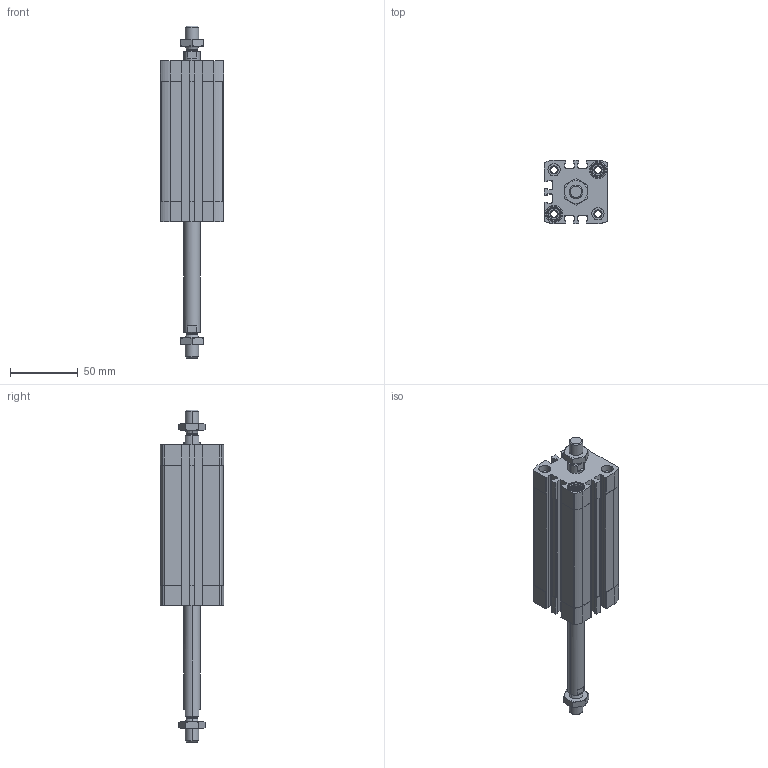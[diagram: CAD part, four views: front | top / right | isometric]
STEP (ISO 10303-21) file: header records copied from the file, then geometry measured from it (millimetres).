
FILE_DESCRIPTION (( 'STEP AP203' ), '1' );
FILE_NAME ('CCN32-75-P.STEP', '2020-06-22T18:48:31', ( '' ), ( '' ), 'SwSTEP 2.0', 'SolidWorks 2019', '' );
FILE_SCHEMA (( 'CONFIG_CONTROL_DESIGN' ));
Length unit declared in the file: millimetre
Products named in the file (1): CCN32-75-P
Bounding box: 47 x 47 x 245.5 mm (x, y, z)
Volume: 178082.8 mm3; surface area: 69810.6 mm2
Topology: 4 solids, 4 shells, 536 faces, 1416 edges, 920 vertices
Faces by surface type: plane 288, cylinder 180, cone 60, torus 8
Entity records: 17371 total; most frequent: CARTESIAN_POINT 3741, DIRECTION 2898, ORIENTED_EDGE 2832, EDGE_CURVE 1416, AXIS2_PLACEMENT_3D 1069, VERTEX_POINT 920, LINE 760, VECTOR 760
